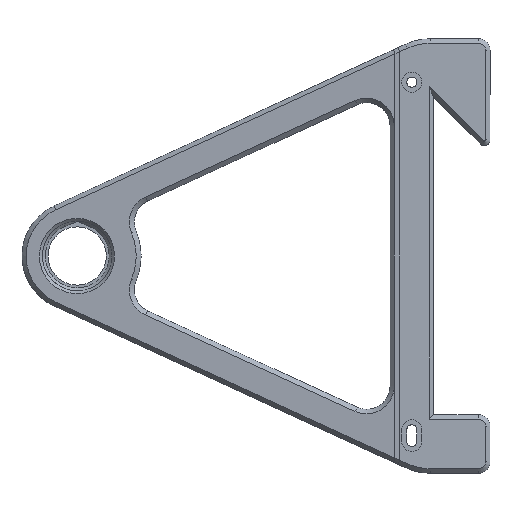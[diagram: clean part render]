
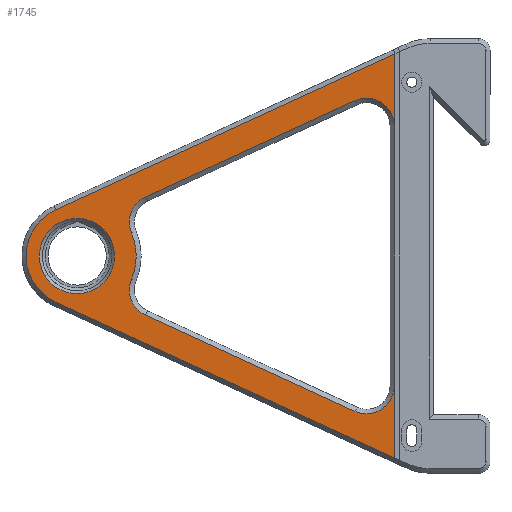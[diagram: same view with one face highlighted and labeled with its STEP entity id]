
A CAD part, left-side view. The second image highlights one B-rep face of the part: STEP entity #1745.
In plain terms, the highlighted planar face has unit normal (-0.996, 0.085, 0).
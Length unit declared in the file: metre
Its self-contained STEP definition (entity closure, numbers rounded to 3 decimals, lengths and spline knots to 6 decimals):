
#75=B_SPLINE_CURVE_WITH_KNOTS('',3,(#2675,#2676,#2677,#2678,#2679,#2680,
#2681,#2682,#2683,#2684,#2685,#2686,#2687,#2688,#2689,#2690,#2691,#2692,
#2693),.UNSPECIFIED.,.T.,.F.,(1,1,1,1,1,1,1,1,1,1,1,1,1,1,1,1,1,1,1,1,1,
1,1),(-0.190789,-0.128289,-0.065789,0.,0.059375,
0.121719,0.184211,0.246711,0.309211,0.371711,
0.434211,0.496711,0.559211,0.621711,
0.684211,0.746711,0.809211,0.871711,
0.934211,1.,1.059375,1.121719,1.184211),.UNSPECIFIED.);
#76=B_SPLINE_CURVE_WITH_KNOTS('',3,(#2695,#2696,#2697,#2698,#2699,#2700,
#2701),.UNSPECIFIED.,.F.,.F.,(4,1,1,1,4),(0.,0.25,0.5,0.75,1.),
 .UNSPECIFIED.);
#77=B_SPLINE_CURVE_WITH_KNOTS('',3,(#2706,#2707,#2708,#2709,#2710,#2711,
#2712),.UNSPECIFIED.,.F.,.F.,(4,1,1,1,4),(0.,0.25,0.5,0.75,1.),
 .UNSPECIFIED.);
#78=B_SPLINE_CURVE_WITH_KNOTS('',3,(#2716,#2717,#2718,#2719,#2720,#2721,
#2722,#2723,#2724,#2725),.UNSPECIFIED.,.F.,.F.,(4,1,1,1,1,1,1,4),(0.,0.125,
0.25,0.5,0.625,0.75,0.875,1.),.UNSPECIFIED.);
#79=B_SPLINE_CURVE_WITH_KNOTS('',3,(#2727,#2728,#2729,#2730,#2731),
 .UNSPECIFIED.,.F.,.F.,(4,1,4),(0.,0.5,1.),.UNSPECIFIED.);
#80=B_SPLINE_CURVE_WITH_KNOTS('',3,(#2733,#2734,#2735,#2736,#2737,#2738,
#2739,#2740,#2741,#2742),.UNSPECIFIED.,.F.,.F.,(4,1,1,1,1,1,1,4),(0.,0.125,
0.25,0.5,0.625,0.75,0.875,1.),.UNSPECIFIED.);
#81=B_SPLINE_CURVE_WITH_KNOTS('',3,(#2750,#2751,#2752,#2753,#2754,#2755,
#2756),.UNSPECIFIED.,.F.,.F.,(4,1,1,1,4),(0.,0.25,0.5,0.75,1.),
 .UNSPECIFIED.);
#133=LINE('',#2704,#287);
#134=LINE('',#2714,#288);
#135=LINE('',#2744,#289);
#136=LINE('',#2745,#290);
#137=LINE('',#2748,#291);
#138=LINE('',#2758,#292);
#287=VECTOR('',#2141,1.);
#288=VECTOR('',#2142,1.);
#289=VECTOR('',#2143,1.);
#290=VECTOR('',#2144,1.);
#291=VECTOR('',#2145,1.);
#292=VECTOR('',#2146,1.);
#468=ORIENTED_EDGE('',*,*,#976,.F.);
#469=ORIENTED_EDGE('',*,*,#977,.F.);
#470=ORIENTED_EDGE('',*,*,#978,.F.);
#471=ORIENTED_EDGE('',*,*,#979,.F.);
#472=ORIENTED_EDGE('',*,*,#980,.F.);
#473=ORIENTED_EDGE('',*,*,#981,.F.);
#474=ORIENTED_EDGE('',*,*,#982,.F.);
#475=ORIENTED_EDGE('',*,*,#983,.F.);
#476=ORIENTED_EDGE('',*,*,#984,.F.);
#477=ORIENTED_EDGE('',*,*,#985,.F.);
#478=ORIENTED_EDGE('',*,*,#986,.F.);
#479=ORIENTED_EDGE('',*,*,#987,.F.);
#480=ORIENTED_EDGE('',*,*,#988,.F.);
#976=EDGE_CURVE('',#1230,#1230,#75,.T.);
#977=EDGE_CURVE('',#1231,#1232,#76,.T.);
#978=EDGE_CURVE('',#1233,#1231,#133,.T.);
#979=EDGE_CURVE('',#1234,#1233,#77,.T.);
#980=EDGE_CURVE('',#1235,#1234,#134,.T.);
#981=EDGE_CURVE('',#1236,#1235,#78,.T.);
#982=EDGE_CURVE('',#1237,#1236,#79,.T.);
#983=EDGE_CURVE('',#1238,#1237,#80,.T.);
#984=EDGE_CURVE('',#1232,#1238,#135,.T.);
#985=EDGE_CURVE('',#1239,#1240,#136,.F.);
#986=EDGE_CURVE('',#1241,#1239,#137,.T.);
#987=EDGE_CURVE('',#1242,#1241,#81,.T.);
#988=EDGE_CURVE('',#1240,#1242,#138,.T.);
#1230=VERTEX_POINT('',#2694);
#1231=VERTEX_POINT('',#2702);
#1232=VERTEX_POINT('',#2703);
#1233=VERTEX_POINT('',#2705);
#1234=VERTEX_POINT('',#2713);
#1235=VERTEX_POINT('',#2715);
#1236=VERTEX_POINT('',#2726);
#1237=VERTEX_POINT('',#2732);
#1238=VERTEX_POINT('',#2743);
#1239=VERTEX_POINT('',#2746);
#1240=VERTEX_POINT('',#2747);
#1241=VERTEX_POINT('',#2749);
#1242=VERTEX_POINT('',#2757);
#1407=EDGE_LOOP('',(#468));
#1408=EDGE_LOOP('',(#469,#470,#471,#472,#473,#474,#475,#476));
#1409=EDGE_LOOP('',(#477,#478,#479,#480));
#1551=FACE_BOUND('',#1407,.T.);
#1552=FACE_BOUND('',#1408,.T.);
#1553=FACE_BOUND('',#1409,.T.);
#1687=PLANE('',#1904);
#1745=ADVANCED_FACE('',(#1551,#1552,#1553),#1687,.F.);
#1904=AXIS2_PLACEMENT_3D('',#2674,#2139,#2140);
#2139=DIRECTION('',(0.996,-0.085,0.));
#2140=DIRECTION('',(-0.085,-0.996,0.));
#2141=DIRECTION('',(0.,0.,1.));
#2142=DIRECTION('',(-0.077,-0.906,-0.417));
#2143=DIRECTION('',(0.077,0.906,-0.417));
#2144=DIRECTION('',(0.,0.,1.));
#2145=DIRECTION('',(-0.077,-0.906,0.417));
#2146=DIRECTION('',(0.077,0.906,0.417));
#2674=CARTESIAN_POINT('',(-0.0145,0.096775,-0.146366));
#2675=CARTESIAN_POINT('',(-0.009572,0.154815,0.005275));
#2676=CARTESIAN_POINT('',(-0.009481,0.155884,0.000172));
#2677=CARTESIAN_POINT('',(-0.009563,0.154924,-0.004914));
#2678=CARTESIAN_POINT('',(-0.009796,0.152178,-0.009213));
#2679=CARTESIAN_POINT('',(-0.010157,0.147925,-0.012184));
#2680=CARTESIAN_POINT('',(-0.010587,0.142856,-0.013304));
#2681=CARTESIAN_POINT('',(-0.011021,0.137744,-0.012397));
#2682=CARTESIAN_POINT('',(-0.011393,0.133367,-0.009604));
#2683=CARTESIAN_POINT('',(-0.011645,0.130393,-0.005348));
#2684=CARTESIAN_POINT('',(-0.011741,0.129274,-0.000278));
#2685=CARTESIAN_POINT('',(-0.011664,0.13018,0.004834));
#2686=CARTESIAN_POINT('',(-0.011426,0.132974,0.00921));
#2687=CARTESIAN_POINT('',(-0.011065,0.13723,0.012184));
#2688=CARTESIAN_POINT('',(-0.010635,0.1423,0.013303));
#2689=CARTESIAN_POINT('',(-0.0102,0.147412,0.012397));
#2690=CARTESIAN_POINT('',(-0.009829,0.151788,0.009603));
#2691=CARTESIAN_POINT('',(-0.009572,0.154815,0.005275));
#2692=CARTESIAN_POINT('',(-0.009481,0.155884,0.000172));
#2693=CARTESIAN_POINT('',(-0.009563,0.154924,-0.004914));
#2694=CARTESIAN_POINT('',(-0.00951,0.155546,0.));
#2695=CARTESIAN_POINT('',(-0.019909,0.033077,0.044939));
#2696=CARTESIAN_POINT('',(-0.019909,0.033076,0.046531));
#2697=CARTESIAN_POINT('',(-0.019839,0.033893,0.049719));
#2698=CARTESIAN_POINT('',(-0.019554,0.037257,0.053326));
#2699=CARTESIAN_POINT('',(-0.019156,0.04194,0.054876));
#2700=CARTESIAN_POINT('',(-0.018881,0.045177,0.054287));
#2701=CARTESIAN_POINT('',(-0.018758,0.046623,0.05362));
#2702=CARTESIAN_POINT('',(-0.019909,0.033077,0.044939));
#2703=CARTESIAN_POINT('',(-0.018758,0.046623,0.05362));
#2704=CARTESIAN_POINT('',(-0.019909,0.033077,0.044939));
#2705=CARTESIAN_POINT('',(-0.019909,0.033077,-0.044939));
#2706=CARTESIAN_POINT('',(-0.018758,0.046623,-0.05362));
#2707=CARTESIAN_POINT('',(-0.018881,0.045177,-0.054286));
#2708=CARTESIAN_POINT('',(-0.019156,0.04194,-0.054876));
#2709=CARTESIAN_POINT('',(-0.019554,0.037257,-0.053326));
#2710=CARTESIAN_POINT('',(-0.019839,0.033893,-0.049719));
#2711=CARTESIAN_POINT('',(-0.019909,0.033076,-0.046532));
#2712=CARTESIAN_POINT('',(-0.019909,0.033077,-0.044939));
#2713=CARTESIAN_POINT('',(-0.018758,0.046623,-0.05362));
#2714=CARTESIAN_POINT('',(-0.018768,0.046511,-0.053671));
#2715=CARTESIAN_POINT('',(-0.012618,0.118938,-0.020365));
#2716=CARTESIAN_POINT('',(-0.01221,0.123749,-0.00797));
#2717=CARTESIAN_POINT('',(-0.012189,0.123989,-0.008533));
#2718=CARTESIAN_POINT('',(-0.012158,0.124353,-0.009686));
#2719=CARTESIAN_POINT('',(-0.012136,0.124621,-0.012167));
#2720=CARTESIAN_POINT('',(-0.012173,0.124183,-0.014618));
#2721=CARTESIAN_POINT('',(-0.012266,0.123084,-0.016802));
#2722=CARTESIAN_POINT('',(-0.012363,0.121944,-0.018268));
#2723=CARTESIAN_POINT('',(-0.012482,0.120543,-0.019506));
#2724=CARTESIAN_POINT('',(-0.012571,0.119495,-0.020112));
#2725=CARTESIAN_POINT('',(-0.012618,0.118938,-0.020365));
#2726=CARTESIAN_POINT('',(-0.01221,0.123749,-0.00797));
#2727=CARTESIAN_POINT('',(-0.01221,0.123749,0.00797));
#2728=CARTESIAN_POINT('',(-0.0123,0.122682,0.005473));
#2729=CARTESIAN_POINT('',(-0.012393,0.121595,0.));
#2730=CARTESIAN_POINT('',(-0.0123,0.122682,-0.005472));
#2731=CARTESIAN_POINT('',(-0.01221,0.123749,-0.00797));
#2732=CARTESIAN_POINT('',(-0.01221,0.123749,0.00797));
#2733=CARTESIAN_POINT('',(-0.012618,0.118938,0.020365));
#2734=CARTESIAN_POINT('',(-0.012571,0.119495,0.020112));
#2735=CARTESIAN_POINT('',(-0.012482,0.120542,0.019506));
#2736=CARTESIAN_POINT('',(-0.012323,0.122413,0.017855));
#2737=CARTESIAN_POINT('',(-0.01221,0.123743,0.015751));
#2738=CARTESIAN_POINT('',(-0.012154,0.124406,0.013397));
#2739=CARTESIAN_POINT('',(-0.012141,0.124553,0.011546));
#2740=CARTESIAN_POINT('',(-0.012158,0.124354,0.009687));
#2741=CARTESIAN_POINT('',(-0.012189,0.123989,0.008533));
#2742=CARTESIAN_POINT('',(-0.01221,0.123749,0.00797));
#2743=CARTESIAN_POINT('',(-0.012618,0.118938,0.020365));
#2744=CARTESIAN_POINT('',(-0.012628,0.118826,0.020417));
#2745=CARTESIAN_POINT('',(-0.019928,0.032845,-0.071781));
#2746=CARTESIAN_POINT('',(-0.019928,0.032845,0.069743));
#2747=CARTESIAN_POINT('',(-0.019928,0.032845,-0.069743));
#2748=CARTESIAN_POINT('',(-0.019981,0.032222,0.070029));
#2749=CARTESIAN_POINT('',(-0.009986,0.149941,0.015896));
#2750=CARTESIAN_POINT('',(-0.009986,0.149941,-0.015896));
#2751=CARTESIAN_POINT('',(-0.009729,0.15296,-0.014514));
#2752=CARTESIAN_POINT('',(-0.009286,0.158181,-0.009962));
#2753=CARTESIAN_POINT('',(-0.009038,0.161101,0.));
#2754=CARTESIAN_POINT('',(-0.009286,0.158181,0.009963));
#2755=CARTESIAN_POINT('',(-0.009729,0.152961,0.014513));
#2756=CARTESIAN_POINT('',(-0.009986,0.149941,0.015896));
#2757=CARTESIAN_POINT('',(-0.009986,0.149941,-0.015896));
#2758=CARTESIAN_POINT('',(-0.017897,0.056769,-0.058741));
